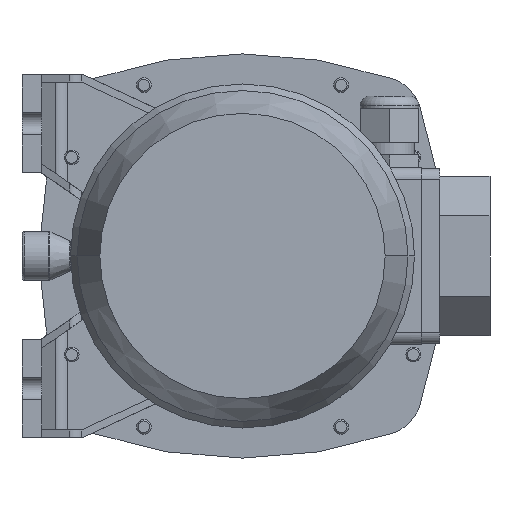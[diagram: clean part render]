
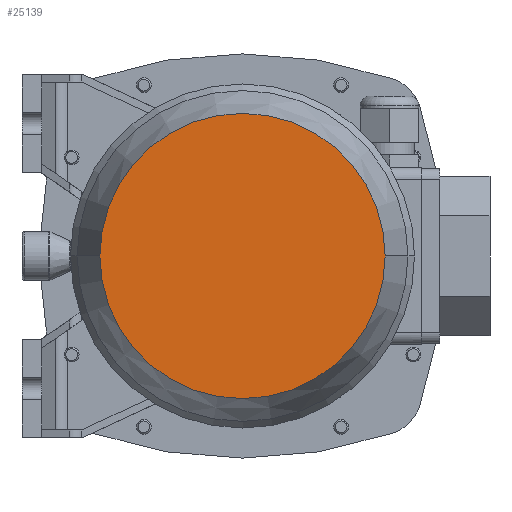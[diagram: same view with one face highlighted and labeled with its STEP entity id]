
A CAD part, front view. The second image highlights one B-rep face of the part: STEP entity #25139.
In plain terms, the highlighted planar face has unit normal (0, -1, 0) as drawn and (1, 0, 0) by its records, which use the part's own axes.
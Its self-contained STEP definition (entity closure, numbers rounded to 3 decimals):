
#18476=CARTESIAN_POINT('',(181.,0.,0.));
#18477=DIRECTION('',(-1.,0.,0.));
#18478=DIRECTION('',(0.,1.,0.));
#18479=AXIS2_PLACEMENT_3D('',#18476,#18477,#18478);
#18484=CARTESIAN_POINT('',(181.,0.,0.));
#18485=DIRECTION('',(1.,0.,0.));
#18486=DIRECTION('',(0.,1.,0.));
#18487=AXIS2_PLACEMENT_3D('',#18484,#18485,#18486);
#20427=CARTESIAN_POINT('',(181.,58.207,0.));
#20429=VERTEX_POINT('',#20427);
#20437=CARTESIAN_POINT('',(181.,-58.207,0.));
#20439=VERTEX_POINT('',#20437);
#25130=CARTESIAN_POINT('',(181.,0.,0.));
#25131=DIRECTION('',(1.,0.,0.));
#25132=DIRECTION('',(0.,-1.,0.));
#25133=AXIS2_PLACEMENT_3D('',#25130,#25131,#25132);
#25134=PLANE('',#25133);
#25135=ORIENTED_EDGE('',*,*,#25112,.T.);
#25136=ORIENTED_EDGE('',*,*,#25123,.F.);
#25137=EDGE_LOOP('',(#25135,#25136));
#25138=FACE_OUTER_BOUND('',#25137,.F.);
#18480=CIRCLE('',#18479,58.207);
#18488=CIRCLE('',#18487,58.207);
#25112=EDGE_CURVE('',#20429,#20439,#18480,.T.);
#25123=EDGE_CURVE('',#20429,#20439,#18488,.T.);
#25139=ADVANCED_FACE('',(#25138),#25134,.T.);
